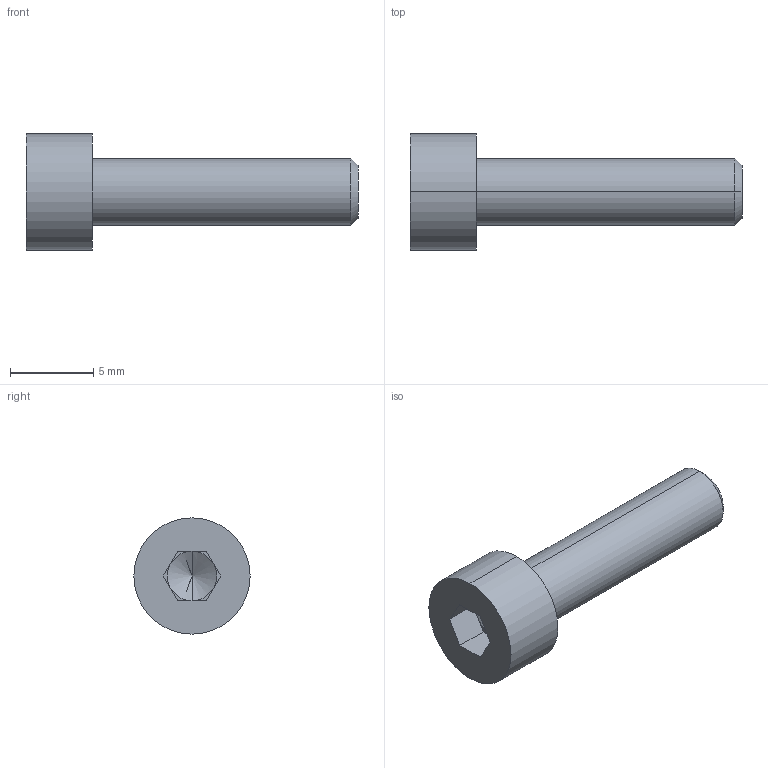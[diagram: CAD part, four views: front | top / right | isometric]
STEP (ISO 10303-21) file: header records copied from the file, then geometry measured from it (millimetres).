
FILE_DESCRIPTION (( 'STEP AP214' ), '1' );
FILE_NAME ('M4x16_DIN912.STEP', '2016-05-08T07:50:23', ( '' ), ( '' ), 'SwSTEP 2.0', 'SolidWorks 2014', '' );
FILE_SCHEMA (( 'AUTOMOTIVE_DESIGN' ));
Length unit declared in the file: millimetre
Products named in the file (1): M4x16_DIN912
Bounding box: 20 x 7 x 7 mm (x, y, z)
Volume: 336.3 mm3; surface area: 384.5 mm2
Topology: 1 solids, 1 shells, 18 faces, 40 edges, 25 vertices
Faces by surface type: plane 10, cylinder 4, cone 4
Entity records: 718 total; most frequent: DIRECTION 88, CARTESIAN_POINT 82, ORIENTED_EDGE 76, EDGE_CURVE 38, AXIS2_PLACEMENT_3D 31, VECTOR 26, LINE 26, VERTEX_POINT 25
